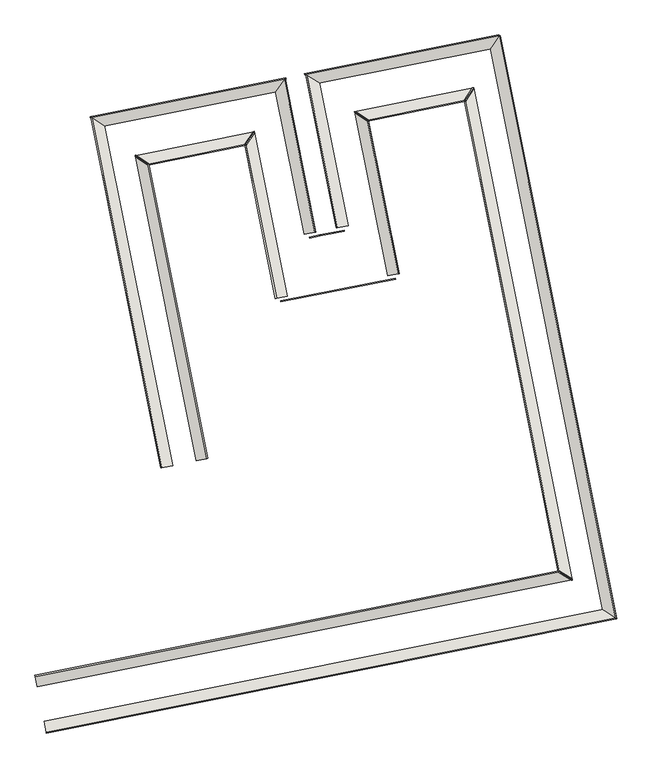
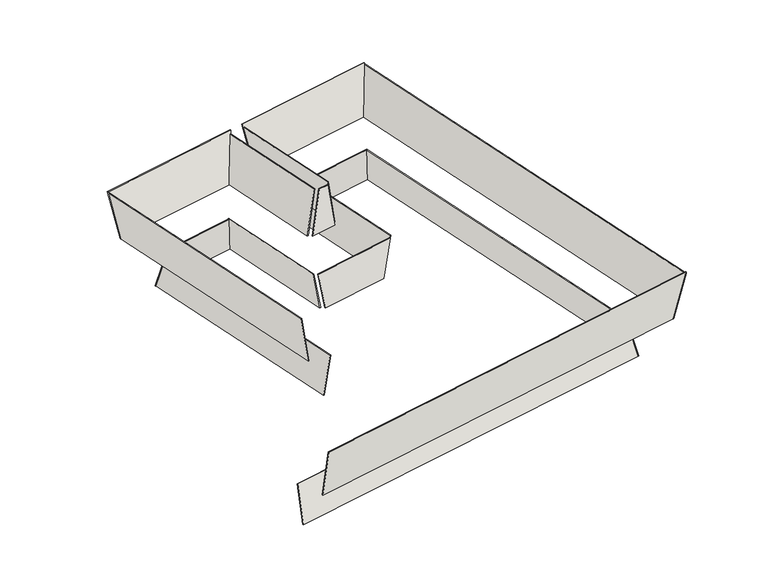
"""IFC4 building model written with IfcOpenShell, lengths in millimetres: wall geometry, M_insitu 244 G2 Azul Liso P3 : M_insitu 244 G2 Azul Liso P3."""

from ifc_helpers import new_model, si_unit, frame, origin, place, context, project, spatial, polyline, outline, extrude, faceted_brep, source, transform, mapped, element, save


def wall_3dee04b9(model_context):
    return source(origin(), model_context, "Body", "SolidModel", [
        faceted_brep([(32837.9387424, -40386.8071896, -620.4), (32744.595817, -40405.482288, -26.3454542), (32735.6581235, -40407.2704504, -26.3454542), (32829.0010489, -40388.595352, -620.4), (32243.7735334, -37417.0172801, -620.4), (32132.1637174, -37344.3897799, -26.3454542), (32123.2260239, -37346.1779425, -26.3454542), (32234.83584, -37418.8054426, -620.4)], [[[0, 1, 2, 3]], [[1, 0, 4, 5]], [[2, 1, 5, 6]], [[3, 2, 6, 7]], [[0, 3, 7, 4]], [[5, 4, 7, 6]]]),
        faceted_brep([(33137.6351617, -40326.8469645, -690.4), (33045.3272274, -40345.3149917, -1170.5), (33054.3203834, -40343.5157331, -1170.5), (33146.6283177, -40325.0477058, -690.4), (32632.3944106, -37754.7748269, -690.4), (32623.4012546, -37756.5740854, -690.4), (32521.6184487, -37680.9349184, -1170.5), (32512.6252927, -37682.7341769, -1170.5)], [[[0, 1, 2, 3]], [[0, 3, 4, 5]], [[3, 2, 6, 4]], [[2, 1, 7, 6]], [[1, 0, 5, 7]], [[5, 4, 6, 7]]]),
        faceted_brep([(33479.0675568, -37596.8127747, -690.4), (33552.9074657, -37486.0368144, -1170.5), (33551.1082072, -37477.0436584, -1170.5), (33477.2682983, -37587.8196187, -690.4), (32623.6018759, -37767.9655826, -690.4), (32512.8259117, -37694.1256745, -1170.5), (32621.802617, -37758.9724266, -690.4), (32511.0266528, -37685.1325185, -1170.5)], [[[0, 1, 2, 3]], [[1, 0, 4, 5]], [[0, 3, 6, 4]], [[3, 2, 7, 6]], [[2, 1, 5, 7]], [[5, 4, 6, 7]]]),
        faceted_brep([(33828.184479, -37014.1930721, -12.4), (33747.1836916, -37127.5852621, -620.4), (33745.3964972, -37118.6524074, -620.4), (33826.3972846, -37005.2602174, -12.4), (32120.8041725, -37355.7883056, -12.4), (32235.0340328, -37430.1207393, -620.4), (32233.2468386, -37421.1878846, -620.4), (32119.0169783, -37346.8554509, -12.4)], [[[0, 1, 2, 3]], [[1, 0, 4, 5]], [[2, 1, 5, 6]], [[3, 2, 6, 7]], [[0, 3, 7, 4]], [[5, 4, 7, 6]]]),
        faceted_brep([(34078.0476607, -38354.0180392, -52.4), (33984.9101439, -38372.6520402, -620.4), (33993.857793, -38370.8618862, -620.4), (34086.9953098, -38352.2278852, -52.4), (33809.7351179, -37012.9231236, -52.4), (33734.0633268, -37118.8553017, -620.4), (33743.0109758, -37117.0651474, -620.4), (33818.6827669, -37011.1329693, -52.4)], [[[0, 1, 2, 3]], [[1, 0, 4, 5]], [[2, 1, 5, 6]], [[3, 2, 6, 7]], [[0, 3, 7, 4]], [[5, 4, 7, 6]]]),
        faceted_brep([(33734.8833432, -38932.5837484, -690.4), (33743.8764992, -38930.7844898, -690.4), (33474.8699789, -37586.2209477, -690.4), (33465.8768228, -37588.0202062, -690.4), (33827.1912775, -38914.1157211, -1170.5), (33539.7167301, -37477.2442462, -1170.5), (33836.1844335, -38912.3164625, -1170.5), (33548.7098862, -37475.4449877, -1170.5)], [[[0, 1, 2, 3]], [[4, 0, 3, 5]], [[6, 4, 5, 7]], [[1, 6, 7, 2]], [[3, 2, 7, 5]], [[1, 0, 4, 6]]]),
        faceted_brep([(33781.4773989, -38961.5802877, -690.4), (33779.6782833, -38952.5878475, -690.4), (33779.6782833, -38952.5878475, -691.712635), (33781.4773989, -38961.5802877, -691.7126347), (34779.8571213, -38752.482277, -690.4), (34781.6562369, -38761.4747171, -690.4), (34781.6562369, -38761.4747171, -691.7125353), (34779.8571213, -38752.482277, -691.712535), (34687.801546, -38770.8998166, -1170.5), (33871.7338393, -38934.1703117, -1170.5), (34689.6006617, -38779.8922567, -1170.5), (33873.532955, -38943.1627518, -1170.5)], [[[0, 1, 2, 3]], [[4, 5, 6, 7]], [[1, 4, 7, 8, 9, 2]], [[9, 8, 10, 11]], [[5, 0, 3, 11, 10, 6]], [[1, 0, 5, 4]], [[3, 2, 9, 11]], [[7, 6, 10, 8]]]),
        extrude(outline(polyline([(54.5483838, 0.0), (365.4318762, 0.0), (270.4485986, -568.0), (149.5316613, -568.0), (54.5483838, 0.0)])), frame((33978.0422003, -38414.8188481, -620.4), z_axis=(-0.1961819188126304, 0.9805675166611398, 0.0), x_axis=(0.9805675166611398, 0.1961819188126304, 0.0)), (0.0, 0.0, 1.0), 9.0),
        faceted_brep([(34434.7933193, -37303.6192214, -1170.4), (34425.8001632, -37305.4184799, -1170.4), (34431.0238031, -37304.3733876, -1143.2314849), (34440.0169592, -37302.574129, -1143.2314849), (34720.7429574, -38732.8689366, -1170.4), (34813.0316652, -38714.4047576, -690.4), (34804.0385091, -38716.2040161, -690.4), (34711.7498014, -38734.6681951, -1170.4), (34535.5079577, -37374.0193688, -690.4), (34544.5011137, -37372.2201103, -690.4)], [[[0, 1, 2, 3]], [[4, 5, 6, 7]], [[1, 0, 4, 7]], [[7, 6, 8, 2, 1]], [[6, 5, 9, 8]], [[5, 4, 0, 3, 9]], [[3, 2, 8, 9]]]),
        faceted_brep([(34274.1611809, -38314.7816968, -52.4), (34265.2135319, -38316.5718511, -52.4), (34358.351048, -38297.937847, -620.4), (34367.298697, -38296.1476927, -620.4), (33997.8553014, -36980.2470649, -52.4), (34006.8029504, -36978.4569105, -52.4), (34011.8921937, -36977.4387066, -83.436797), (34002.9445447, -36979.228861, -83.436797), (34107.5041789, -37044.1410658, -620.4), (34116.4518279, -37042.3509114, -620.4)], [[[0, 1, 2, 3]], [[4, 5, 6, 7]], [[2, 1, 4, 7, 8]], [[0, 3, 9, 6, 5]], [[1, 0, 5, 4]], [[3, 2, 8, 9]], [[7, 6, 9, 8]]]),
        faceted_brep([(35681.7862377, -36634.0529238, -12.4), (35683.5734321, -36642.9857785, -12.4), (35686.1400125, -36655.8142035, -95.8673293), (35684.3528181, -36646.881349, -95.8673308), (33989.307955, -36981.9571307, -12.4), (34107.7001599, -37055.456805, -620.4), (35619.85011, -36752.9212695, -620.4), (33987.5207605, -36973.024276, -12.4), (35618.0629158, -36743.9884148, -620.4), (34105.9129655, -37046.5239503, -620.4)], [[[0, 1, 2, 3]], [[2, 1, 4, 5, 6]], [[1, 0, 7, 4]], [[0, 3, 8, 9, 7]], [[8, 6, 5, 9]], [[3, 2, 6, 8]], [[5, 4, 7, 9]]]),
        faceted_brep([(35465.014112, -37103.4820652, -1170.5), (35391.174205, -37214.2580268, -690.4), (34535.7085725, -37385.4108402, -690.4), (34424.9326125, -37311.570933, -1170.5), (35463.2148533, -37094.4889092, -1170.5), (34423.133354, -37302.5777769, -1170.5), (35389.3749464, -37205.2648708, -690.4), (34533.909314, -37376.4176842, -690.4)], [[[0, 1, 2, 3]], [[4, 0, 3, 5]], [[6, 4, 5, 7]], [[1, 6, 7, 2]], [[1, 0, 4, 6]], [[3, 2, 7, 5]]]),
        faceted_brep([(35683.5733231, -36642.9858003, -26.3454542), (35692.5110164, -36641.1976378, -26.3454542), (35683.5403342, -36642.9924004, -83.4368322), (35674.6026406, -36644.7805629, -83.4368337), (36700.4534056, -41725.6124199, -26.3454542), (35606.7417865, -36744.1888919, -620.4), (36588.843614, -41652.9849018, -620.4), (36709.391099, -41723.8242576, -26.3454542), (36597.7813074, -41651.1967395, -620.4), (35615.6794799, -36742.4007296, -620.4)], [[[0, 1, 2, 3]], [[4, 0, 3, 5, 6]], [[1, 7, 8, 9, 2]], [[1, 0, 4, 7]], [[8, 6, 5, 9]], [[4, 6, 8, 7]], [[3, 2, 9, 5]]]),
        faceted_brep([(36200.2363395, -41315.2971268, -690.4), (36209.2294955, -41313.4978682, -690.4), (35386.9764272, -37203.6662679, -690.4), (35377.9832711, -37205.4655266, -690.4), (36310.6571469, -41387.361882, -1170.5), (35451.8231781, -37094.689565, -1170.5), (36319.6503029, -41385.5626234, -1170.5), (35460.8163341, -37092.8903063, -1170.5)], [[[0, 1, 2, 3]], [[4, 0, 3, 5]], [[6, 4, 5, 7]], [[1, 6, 7, 2]], [[1, 0, 4, 6]], [[3, 2, 7, 5]]]),
        faceted_brep([(31638.3828801, -42216.5626192, -690.4), (31656.4957541, -42307.0954007, -1170.5), (31658.2937436, -42316.082213, -1170.5), (31640.1808697, -42225.5494315, -690.4), (36209.0306371, -41302.1141115, -690.4), (36319.451444, -41374.1788648, -1170.5), (36321.2494335, -41383.1656772, -1170.5), (36210.8286265, -41311.1009239, -690.4)], [[[0, 1, 2, 3]], [[1, 0, 4, 5]], [[2, 1, 5, 6]], [[3, 2, 6, 7]], [[0, 3, 7, 4]], [[5, 4, 7, 6]]]),
        faceted_brep([(31737.0262441, -42709.5183269, -12.4), (31718.3305357, -42616.0723839, -620.4), (31720.1177299, -42625.0052386, -620.4), (31738.8134383, -42718.4511816, -12.4), (36708.5035536, -41714.8759985, -12.4), (36710.2907478, -41723.8088532, -12.4), (36709.6431107, -41720.5717969, -33.4616983), (36707.8559165, -41711.6389421, -33.4616983), (36597.5831131, -41639.8814365, -620.4), (36599.3703073, -41648.8142913, -620.4)], [[[0, 1, 2, 3]], [[4, 5, 6, 7]], [[1, 0, 4, 7, 8]], [[3, 2, 9, 6, 5]], [[0, 3, 5, 4]], [[2, 1, 8, 9]], [[7, 6, 9, 8]]]),
    ])


if __name__ == "__main__":
    model = new_model("IFC4")
    model_context = context("Model", 3, world=origin())
    ifc_project = project(units=[si_unit("LENGTHUNIT", "METRE", prefix="MILLI")], contexts=[model_context])
    site = spatial("IfcSite", under=ifc_project)
    building = spatial("IfcBuilding", under=site)
    placement = place(None, origin())
    wall_shape = wall_3dee04b9(model_context)
    element("IfcWall", 1, ObjectType="M_insitu 244 G2 Azul Liso P3 : M_insitu 244 G2 Azul Liso P3", at=placement, inside=building, context=model_context, shape_type="MappedRepresentation", body=[
        mapped(wall_shape, transform((0.0, 0.0, 0.0), x_axis=(1.0, 0.0, 0.0), y_axis=(0.0, 1.0, 0.0), z_axis=(0.0, 0.0, 1.0))),
    ])
    save(model, "model.ifc")
